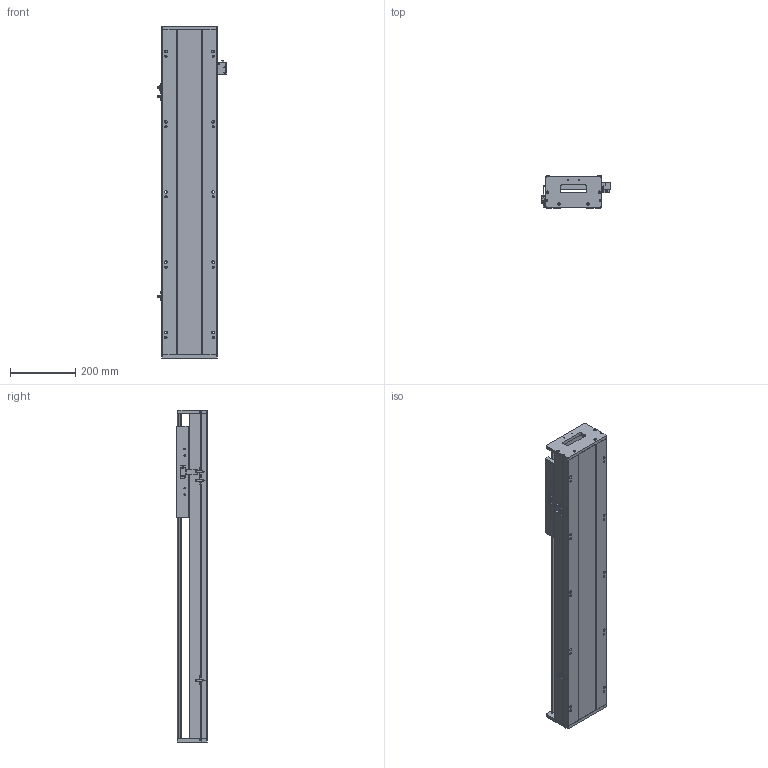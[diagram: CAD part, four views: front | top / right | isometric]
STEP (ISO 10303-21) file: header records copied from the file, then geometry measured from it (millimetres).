
FILE_DESCRIPTION (( 'STEP AP203' ), '1' );
FILE_NAME ('SKR17S-C2-S640（简）.STEP', '2022-09-29T07:38:49', ( '' ), ( '' ), 'SwSTEP 2.0', 'SolidWorks 2018', '' );
FILE_SCHEMA (( 'CONFIG_CONTROL_DESIGN' ));
Length unit declared in the file: millimetre
Products named in the file (8): SKR17菁釱-C2-S640(潠); SKR17滑台-280L（简）; 棠掑假蚾輸; EE-SX672; SKR17S-C2-S640（简）; SIKO棠掑; 感应片（SKR12S-14S-17S）; SKR17耜啣
Assembly tree (10 placements, depth 2):
  SKR17S-C2-S640（简）
    SKR17菁釱-C2-S640(潠)
    SIKO棠掑
    EE-SX672  x3
    SKR17耜啣  x2
    棠掑假蚾輸
    SKR17滑台-280L（简）
    感应片（SKR12S-14S-17S）
Bounding box: 212.7 x 97 x 1020 mm (x, y, z)
Volume: 8548994 mm3; surface area: 1104872.7 mm2
Topology: 11 solids, 11 shells, 1048 faces, 2894 edges, 1858 vertices
Faces by surface type: cylinder 481, plane 453, cone 114
Entity records: 30755 total; most frequent: CARTESIAN_POINT 7407, ORIENTED_EDGE 4808, DIRECTION 4589, EDGE_CURVE 2404, AXIS2_PLACEMENT_3D 1624, VERTEX_POINT 1562, VECTOR 1341, LINE 1341
